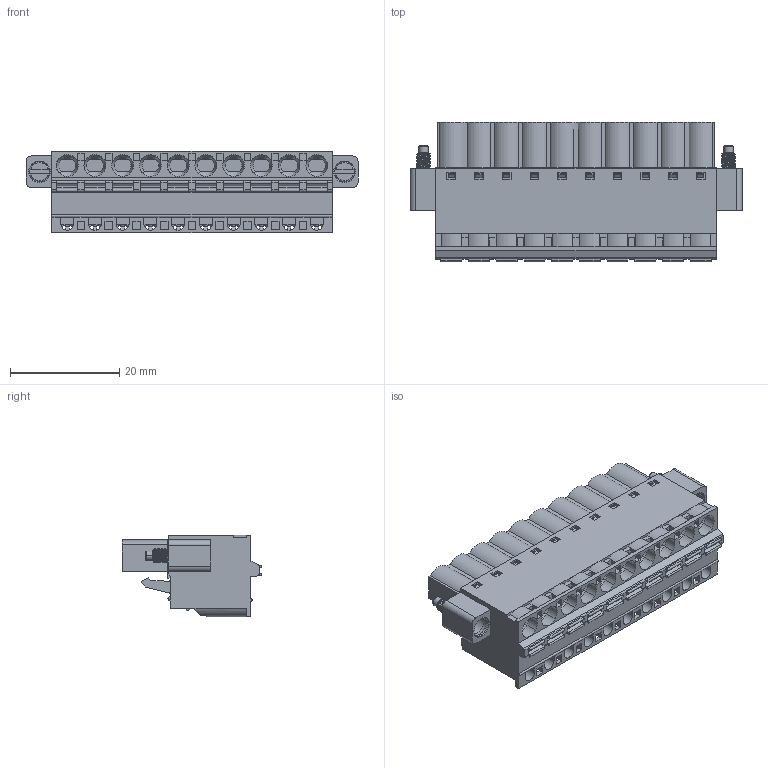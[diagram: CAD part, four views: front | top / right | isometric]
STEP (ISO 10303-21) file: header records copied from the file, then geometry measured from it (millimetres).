
FILE_DESCRIPTION(('Open CASCADE Model'),'2;1');
FILE_NAME('Open CASCADE Shape Model','2022-08-04T11:02:20',('Author'),( 'Open CASCADE'),'Open CASCADE STEP processor 6.5','Open CASCADE 6.5' ,'Unknown');
FILE_SCHEMA(('AUTOMOTIVE_DESIGN { 1 0 10303 214 1 1 1 1 }'));
Length unit declared in the file: millimetre
Products named in the file (1110): CADSOFTTOOLS 6; CADSOFTTOOLS 6.1; CADSOFTTOOLS 6.2; CADSOFTTOOLS 6.3; CADSOFTTOOLS 6.4; CADSOFTTOOLS 6.5; CADSOFTTOOLS 6.6; CADSOFTTOOLS 6.7; CADSOFTTOOLS 6.8; CADSOFTTOOLS 6.9; CADSOFTTOOLS 6.10; CADSOFTTOOLS 6.11; CADSOFTTOOLS 6.12; CADSOFTTOOLS 6.13; CADSOFTTOOLS 6.14; CADSOFTTOOLS 6.15; CADSOFTTOOLS 6.16; CADSOFTTOOLS 6.17; CADSOFTTOOLS 6.18; CADSOFTTOOLS 6.19; CADSOFTTOOLS 6.20; CADSOFTTOOLS 6.21; CADSOFTTOOLS 6.22; CADSOFTTOOLS 6.23; CADSOFTTOOLS 6.24; CADSOFTTOOLS 6.25; CADSOFTTOOLS 6.26; CADSOFTTOOLS 6.27; CADSOFTTOOLS 6.28; CADSOFTTOOLS 6.29; CADSOFTTOOLS 6.30; CADSOFTTOOLS 6.31; CADSOFTTOOLS 6.32; CADSOFTTOOLS 6.33; CADSOFTTOOLS 6.34; CADSOFTTOOLS 6.35; CADSOFTTOOLS 6.36; CADSOFTTOOLS 6.37; CADSOFTTOOLS 6.38; CADSOFTTOOLS 6.39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
Assembly tree (1109 placements, depth 2):
  CADSOFTTOOLS 6
    CADSOFTTOOLS 6.1
    CADSOFTTOOLS 6.2
    CADSOFTTOOLS 6.3
    CADSOFTTOOLS 6.4
    CADSOFTTOOLS 6.5
    CADSOFTTOOLS 6.6
    CADSOFTTOOLS 6.7
    CADSOFTTOOLS 6.8
    CADSOFTTOOLS 6.9
    CADSOFTTOOLS 6.10
    CADSOFTTOOLS 6.11
    CADSOFTTOOLS 6.12
    CADSOFTTOOLS 6.13
    CADSOFTTOOLS 6.14
    CADSOFTTOOLS 6.15
    CADSOFTTOOLS 6.16
    CADSOFTTOOLS 6.17
    CADSOFTTOOLS 6.18
    CADSOFTTOOLS 6.19
    CADSOFTTOOLS 6.20
    CADSOFTTOOLS 6.21
    CADSOFTTOOLS 6.22
    CADSOFTTOOLS 6.23
    CADSOFTTOOLS 6.24
    CADSOFTTOOLS 6.25
    CADSOFTTOOLS 6.26
    CADSOFTTOOLS 6.27
    CADSOFTTOOLS 6.28
    CADSOFTTOOLS 6.29
    CADSOFTTOOLS 6.30
    CADSOFTTOOLS 6.31
    CADSOFTTOOLS 6.32
    CADSOFTTOOLS 6.33
    CADSOFTTOOLS 6.34
    CADSOFTTOOLS 6.35
    CADSOFTTOOLS 6.36
    CADSOFTTOOLS 6.37
    CADSOFTTOOLS 6.38
    CADSOFTTOOLS 6.39
    CADSOFTTOOLS 6.40
    CADSOFTTOOLS 6.41
    CADSOFTTOOLS 6.42
    CADSOFTTOOLS 6.43
    CADSOFTTOOLS 6.44
    CADSOFTTOOLS 6.45
    CADSOFTTOOLS 6.46
    CADSOFTTOOLS 6.47
    CADSOFTTOOLS 6.48
    CADSOFTTOOLS 6.49
    CADSOFTTOOLS 6.50
    CADSOFTTOOLS 6.51
    CADSOFTTOOLS 6.52
    CADSOFTTOOLS 6.53
    CADSOFTTOOLS 6.54
    CADSOFTTOOLS 6.55
    CADSOFTTOOLS 6.56
    CADSOFTTOOLS 6.57
    CADSOFTTOOLS 6.58
    CADSOFTTOOLS 6.59
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Bounding box: 60.8 x 25.6 x 15 mm (x, y, z)
Surface area: 7236.4 mm2 (no closed solid volume)
Topology: 0 solids, 1109 shells, 1109 faces, 6086 edges, 6062 vertices
Faces by surface type: plane 756, cylinder 211, bspline 70, cone 44, torus 16, sphere 12
Entity records: 161981 total; most frequent: CARTESIAN_POINT 64438, DIRECTION 15144, LINE 7906, VECTOR 7906, VERTEX_POINT 6078, ORIENTED_EDGE 6062, EDGE_CURVE 6062, SURFACE_CURVE 6062
